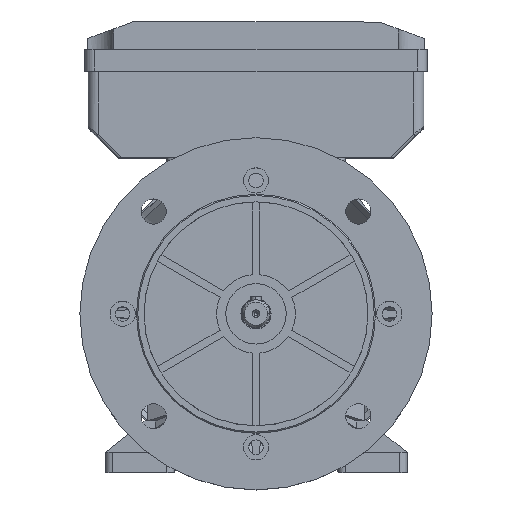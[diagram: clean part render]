
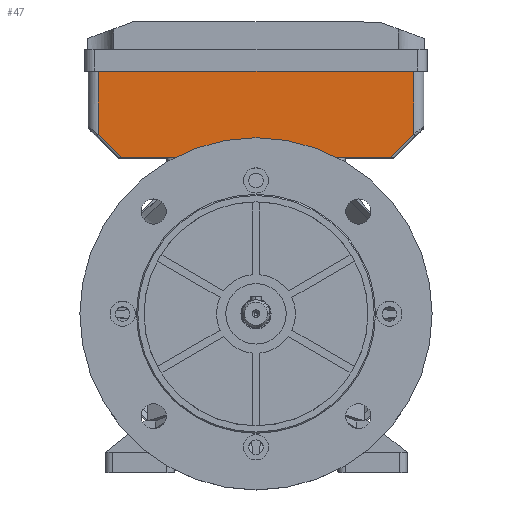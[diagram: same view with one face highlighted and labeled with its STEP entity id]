
A CAD part, top view. The second image highlights one B-rep face of the part: STEP entity #47.
In plain terms, the highlighted planar face has unit normal (0, 0, 1).
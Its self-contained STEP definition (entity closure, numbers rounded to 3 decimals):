
#47 = ADVANCED_FACE ( 'NONE', ( #23987 ), #26379, .F. ) ;
#1909 = VERTEX_POINT ( 'NONE', #5389 ) ;
#1926 = VERTEX_POINT ( 'NONE', #5406 ) ;
#1968 = VERTEX_POINT ( 'NONE', #5448 ) ;
#1978 = VERTEX_POINT ( 'NONE', #5458 ) ;
#1979 = VERTEX_POINT ( 'NONE', #5459 ) ;
#1984 = VERTEX_POINT ( 'NONE', #5464 ) ;
#5389 = CARTESIAN_POINT ( 'NONE',  ( 62.75, 39., 0. ) ) ;
#5406 = CARTESIAN_POINT ( 'NONE',  ( 62.75, 9.414, 0. ) ) ;
#5448 = CARTESIAN_POINT ( 'NONE',  ( 53.336, 0., 0. ) ) ;
#5458 = CARTESIAN_POINT ( 'NONE',  ( -62.75, 9.414, 0. ) ) ;
#5459 = CARTESIAN_POINT ( 'NONE',  ( -62.75, 39., 0. ) ) ;
#5464 = CARTESIAN_POINT ( 'NONE',  ( -53.336, 0., 0. ) ) ;
#6596 = EDGE_CURVE ( 'NONE', #1984, #1968, #7075, .T. ) ;
#7075 = LINE ( 'NONE', #10030, #7077 ) ;
#7077 = VECTOR ( 'NONE', #10032, 1000. ) ;
#7628 = EDGE_LOOP ( 'NONE', ( #39346, #39320, #39302, #39269, #39296, #39211 ) ) ;
#8026 = LINE ( 'NONE', #11292, #8030 ) ;
#8030 = VECTOR ( 'NONE', #11293, 1000. ) ;
#8077 = LINE ( 'NONE', #11326, #8083 ) ;
#8083 = VECTOR ( 'NONE', #11327, 1000. ) ;
#8134 = LINE ( 'NONE', #11363, #8140 ) ;
#8140 = VECTOR ( 'NONE', #11364, 1000. ) ;
#8166 = LINE ( 'NONE', #11429, #8249 ) ;
#8170 = LINE ( 'NONE', #11382, #8174 ) ;
#8174 = VECTOR ( 'NONE', #11378, 1000. ) ;
#8249 = VECTOR ( 'NONE', #11436, 1000. ) ;
#8691 = EDGE_CURVE ( 'NONE', #1926, #1909, #8026, .T. ) ;
#8706 = EDGE_CURVE ( 'NONE', #1979, #1978, #8077, .T. ) ;
#8722 = EDGE_CURVE ( 'NONE', #1909, #1979, #8134, .T. ) ;
#8732 = EDGE_CURVE ( 'NONE', #1968, #1926, #8170, .T. ) ;
#8754 = EDGE_CURVE ( 'NONE', #1978, #1984, #8166, .T. ) ;
#10030 = CARTESIAN_POINT ( 'NONE',  ( -66.75, 0., 0. ) ) ;
#10032 = DIRECTION ( 'NONE',  ( 1., 0., 0. ) ) ;
#11292 = CARTESIAN_POINT ( 'NONE',  ( 62.75, 39., 0. ) ) ;
#11293 = DIRECTION ( 'NONE',  ( 0., 1., 0. ) ) ;
#11326 = CARTESIAN_POINT ( 'NONE',  ( -62.75, 12., 0. ) ) ;
#11327 = DIRECTION ( 'NONE',  ( 0., -1., 0. ) ) ;
#11363 = CARTESIAN_POINT ( 'NONE',  ( -66.75, 39., 0. ) ) ;
#11364 = DIRECTION ( 'NONE',  ( -1., 0., 0. ) ) ;
#11378 = DIRECTION ( 'NONE',  ( 0.707, 0.707, 0. ) ) ;
#11382 = CARTESIAN_POINT ( 'NONE',  ( 62.043, 8.707, 0. ) ) ;
#11429 = CARTESIAN_POINT ( 'NONE',  ( -54.043, 0.707, 0. ) ) ;
#11436 = DIRECTION ( 'NONE',  ( 0.707, -0.707, 0. ) ) ;
#23987 = FACE_OUTER_BOUND ( 'NONE', #7628, .T. ) ;
#26379 = PLANE ( 'NONE',  #45886 ) ;
#26381 = CARTESIAN_POINT ( 'NONE',  ( -66.75, 39., 0. ) ) ;
#26385 = DIRECTION ( 'NONE',  ( 0., 0., -1. ) ) ;
#26386 = DIRECTION ( 'NONE',  ( -1., 0., 0. ) ) ;
#39211 = ORIENTED_EDGE ( 'NONE', *, *, #8754, .T. ) ;
#39269 = ORIENTED_EDGE ( 'NONE', *, *, #8722, .T. ) ;
#39296 = ORIENTED_EDGE ( 'NONE', *, *, #8706, .T. ) ;
#39302 = ORIENTED_EDGE ( 'NONE', *, *, #8691, .T. ) ;
#39320 = ORIENTED_EDGE ( 'NONE', *, *, #8732, .T. ) ;
#39346 = ORIENTED_EDGE ( 'NONE', *, *, #6596, .T. ) ;
#45886 = AXIS2_PLACEMENT_3D ( 'NONE', #26381, #26385, #26386 ) ;
